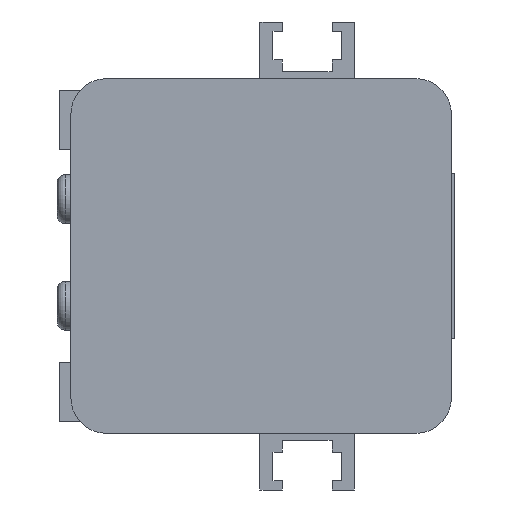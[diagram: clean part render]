
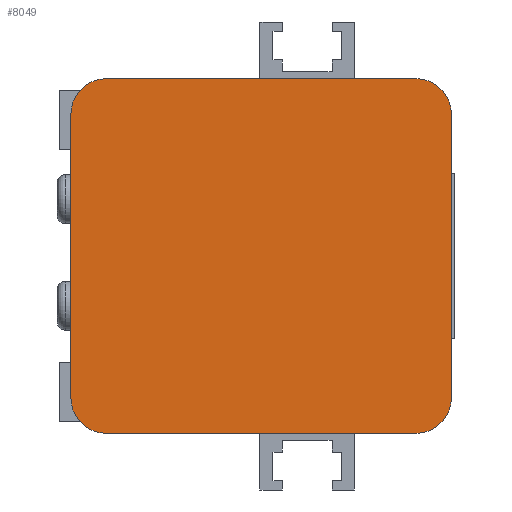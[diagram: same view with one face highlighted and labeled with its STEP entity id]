
A CAD part, left-side view. The second image highlights one B-rep face of the part: STEP entity #8049.
In plain terms, the highlighted planar face has unit normal (-1, 0, 0) as drawn and (0, 0, -1) by its records, which use the part's own axes.
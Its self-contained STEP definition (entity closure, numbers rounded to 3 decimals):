
#646=LINE('',#12281,#1430);
#652=LINE('',#12295,#1436);
#655=LINE('',#12308,#1439);
#689=LINE('',#12378,#1473);
#1430=VECTOR('',#9427,26.2);
#1436=VECTOR('',#9441,24.);
#1439=VECTOR('',#9460,26.2);
#1473=VECTOR('',#9502,24.);
#2063=PLANE('',#8568);
#2517=FACE_OUTER_BOUND('',#3004,.T.);
#3004=EDGE_LOOP('',(#6169,#6170,#6171,#6172,#6173,#6174,#6175,#6176));
#3403=CIRCLE('',#8555,3.);
#3408=CIRCLE('',#8564,3.);
#3409=CIRCLE('',#8569,3.);
#3410=CIRCLE('',#8570,3.);
#3776=VERTEX_POINT('',#12279);
#3777=VERTEX_POINT('',#12280);
#3780=VERTEX_POINT('',#12289);
#3781=VERTEX_POINT('',#12294);
#3782=VERTEX_POINT('',#12303);
#3783=VERTEX_POINT('',#12307);
#3814=VERTEX_POINT('',#12375);
#3815=VERTEX_POINT('',#12377);
#4685=EDGE_CURVE('',#3776,#3777,#646,.T.);
#4690=EDGE_CURVE('',#3777,#3780,#3403,.T.);
#4693=EDGE_CURVE('',#3780,#3781,#652,.T.);
#4698=EDGE_CURVE('',#3781,#3782,#3408,.T.);
#4700=EDGE_CURVE('',#3782,#3783,#655,.T.);
#4734=EDGE_CURVE('',#3814,#3776,#3409,.T.);
#4735=EDGE_CURVE('',#3815,#3814,#689,.T.);
#4736=EDGE_CURVE('',#3783,#3815,#3410,.T.);
#6169=ORIENTED_EDGE('',*,*,#4698,.F.);
#6170=ORIENTED_EDGE('',*,*,#4693,.F.);
#6171=ORIENTED_EDGE('',*,*,#4690,.F.);
#6172=ORIENTED_EDGE('',*,*,#4685,.F.);
#6173=ORIENTED_EDGE('',*,*,#4734,.F.);
#6174=ORIENTED_EDGE('',*,*,#4735,.F.);
#6175=ORIENTED_EDGE('',*,*,#4736,.F.);
#6176=ORIENTED_EDGE('',*,*,#4700,.F.);
#8049=ADVANCED_FACE('',(#2517),#2063,.F.);
#8555=AXIS2_PLACEMENT_3D('',#12290,#9434,#9435);
#8564=AXIS2_PLACEMENT_3D('',#12304,#9455,#9456);
#8568=AXIS2_PLACEMENT_3D('',#12374,#9498,#9499);
#8569=AXIS2_PLACEMENT_3D('',#12376,#9500,#9501);
#8570=AXIS2_PLACEMENT_3D('',#12379,#9503,#9504);
#9427=DIRECTION('',(0.,1.,0.));
#9434=DIRECTION('center_axis',(0.,0.,1.));
#9435=DIRECTION('ref_axis',(0.,-1.,0.));
#9441=DIRECTION('',(-1.,0.,0.));
#9455=DIRECTION('center_axis',(0.,0.,1.));
#9456=DIRECTION('ref_axis',(1.,0.,0.));
#9460=DIRECTION('',(0.,-1.,0.));
#9498=DIRECTION('center_axis',(0.,0.,1.));
#9499=DIRECTION('ref_axis',(1.,0.,0.));
#9500=DIRECTION('center_axis',(0.,0.,1.));
#9501=DIRECTION('ref_axis',(-1.,0.,0.));
#9502=DIRECTION('',(1.,0.,0.));
#9503=DIRECTION('center_axis',(0.,0.,1.));
#9504=DIRECTION('ref_axis',(0.,1.,0.));
#12279=CARTESIAN_POINT('',(17.105,-11.4,-180.));
#12280=CARTESIAN_POINT('',(17.105,14.8,-180.));
#12281=CARTESIAN_POINT('',(17.105,-11.4,-180.));
#12289=CARTESIAN_POINT('',(14.105,17.8,-180.));
#12290=CARTESIAN_POINT('Origin',(14.105,14.8,-180.));
#12294=CARTESIAN_POINT('',(-9.895,17.8,-180.));
#12295=CARTESIAN_POINT('',(14.105,17.8,-180.));
#12303=CARTESIAN_POINT('',(-12.895,14.8,-180.));
#12304=CARTESIAN_POINT('Origin',(-9.895,14.8,-180.));
#12307=CARTESIAN_POINT('',(-12.895,-11.4,-180.));
#12308=CARTESIAN_POINT('',(-12.895,14.8,-180.));
#12374=CARTESIAN_POINT('Origin',(2.105,1.7,-180.));
#12375=CARTESIAN_POINT('',(14.105,-14.4,-180.));
#12376=CARTESIAN_POINT('Origin',(14.105,-11.4,-180.));
#12377=CARTESIAN_POINT('',(-9.895,-14.4,-180.));
#12378=CARTESIAN_POINT('',(-9.895,-14.4,-180.));
#12379=CARTESIAN_POINT('Origin',(-9.895,-11.4,-180.));
